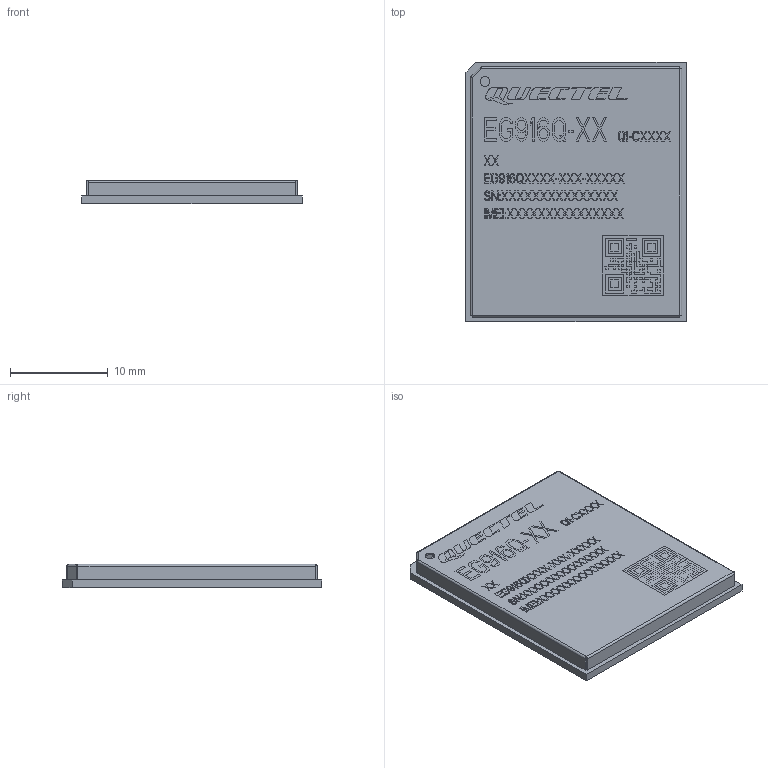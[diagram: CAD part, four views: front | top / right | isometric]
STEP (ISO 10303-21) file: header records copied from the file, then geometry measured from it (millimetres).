
FILE_DESCRIPTION((''),'2;1');
FILE_NAME('QUECTEL_EG916Q-GL_3D_DIMENSIONS_ASM','2023-08-02T',('atim.chen'),(''),'CREO PARAMETRIC BY PTC INC, 2014190','CREO PARAMETRIC BY PTC INC, 2014190','');
FILE_SCHEMA(('AUTOMOTIVE_DESIGN { 1 0 10303 214 1 1 1 1 }'));
Length unit declared in the file: millimetre
Products named in the file (4): EG916Q-GL_PCB_V1-1; EG916Q-GL_PCB_V1-1_ASM; EG916Q-GL_V1-1_COVER; QUECTEL_EG916Q-GL_3D_DIMENSIONS_ASM
Assembly tree (3 placements, depth 3):
  QUECTEL_EG916Q-GL_3D_DIMENSIONS_ASM
    EG916Q-GL_PCB_V1-1_ASM
      EG916Q-GL_PCB_V1-1
    EG916Q-GL_V1-1_COVER
Bounding box: 22.5 x 26.5 x 2.4 mm (x, y, z)
Volume: 609.7 mm3; surface area: 2709.7 mm2
Topology: 2 solids, 105 shells, 788 faces, 3253 edges, 2699 vertices
Faces by surface type: plane 781, cylinder 7
Entity records: 51641 total; most frequent: CARTESIAN_POINT 6930, ORIENTED_EDGE 4875, DIRECTION 4825, PRESENTATION_STYLE_ASSIGNMENT 3997, STYLED_ITEM 3260, CURVE_STYLE 3253, EDGE_CURVE 3253, VECTOR 3201
